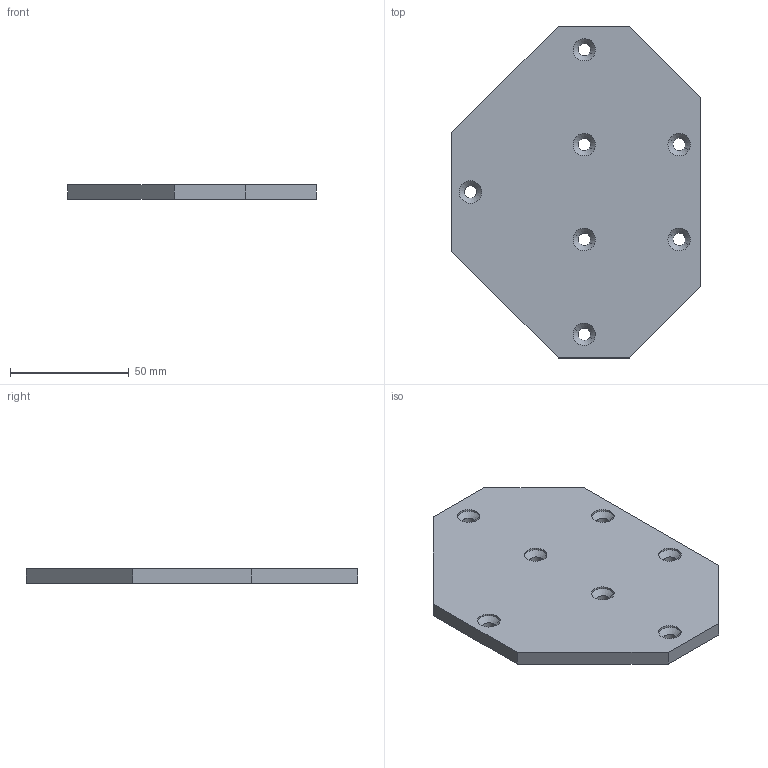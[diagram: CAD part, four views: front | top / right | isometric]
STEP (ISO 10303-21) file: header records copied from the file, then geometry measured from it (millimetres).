
FILE_DESCRIPTION(('CATIA V5 STEP Exchange'),'2;1');
FILE_NAME('C:\Users\Alexis David Sanna\Documents\INVESTIGACION\ROMAA NUEVO (MOTOR REMSSI)\STEP\placa para soporte 2.stp','2010-10-29T14:03:42+00:00',('none'),('none'),'CATIA Version 5 Release 18 GA (IN-10)','CATIA V5 STEP AP203','none');
FILE_SCHEMA(('CONFIG_CONTROL_DESIGN'));
Length unit declared in the file: millimetre
Products named in the file (1): placa para soporte 2
Bounding box: 105 x 140 x 6 mm (x, y, z)
Volume: 69110 mm3; surface area: 26331.2 mm2
Topology: 1 solids, 1 shells, 52 faces, 122 edges, 72 vertices
Faces by surface type: cylinder 28, cone 14, plane 10
Entity records: 1387 total; most frequent: ORIENTED_EDGE 244, CARTESIAN_POINT 226, DIRECTION 184, EDGE_CURVE 122, AXIS2_PLACEMENT_3D 88, VERTEX_POINT 72, VECTOR 66, EDGE_LOOP 66
